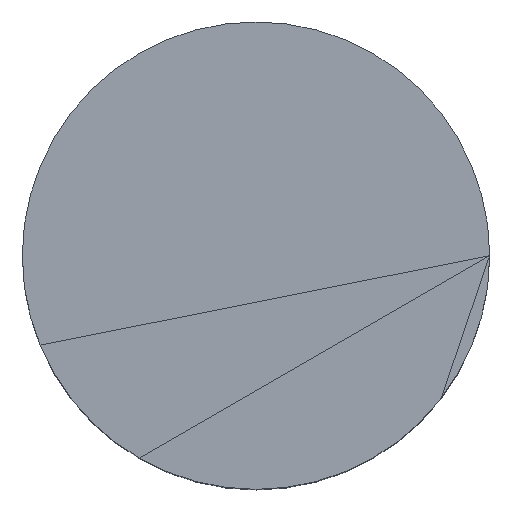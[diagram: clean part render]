
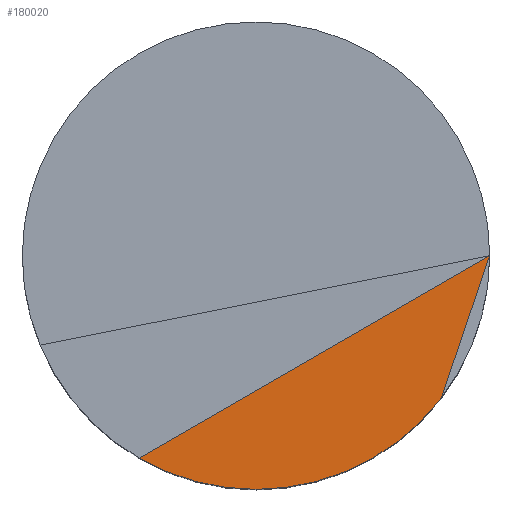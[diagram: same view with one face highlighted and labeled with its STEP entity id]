
A CAD part, top view. The second image highlights one B-rep face of the part: STEP entity #180020.
In plain terms, the highlighted free-form (B-spline) face has degree [1, 1] with [2, 2] control points.
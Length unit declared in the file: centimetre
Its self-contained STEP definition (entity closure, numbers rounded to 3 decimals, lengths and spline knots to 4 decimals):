
#179651 = CARTESIAN_POINT ('', (8.726, -9.6317, 82.9789));
#179652 = VERTEX_POINT ('', #179651);
#179658 = CARTESIAN_POINT ('', (7.538, -13.1321, 82.9789));
#179659 = VERTEX_POINT ('', #179658);
#179660 = CARTESIAN_POINT ('', (8.726, -9.6317, 82.9789));
#179661 = CARTESIAN_POINT ('', (7.538, -13.1321, 82.9789));
#179662 = B_SPLINE_CURVE_WITH_KNOTS ('', 1, (#179660, #179661), .UNSPECIFIED., .F., .U., (2, 2), (0., 1.), .UNSPECIFIED.);
#179663 = EDGE_CURVE ('', #179652, #179659, #179662, .T.);
#179930 = CARTESIAN_POINT ('', (6.476, -14.1935, 82.9789));
#179931 = VERTEX_POINT ('', #179930);
#179932 = CARTESIAN_POINT ('', (7.042, -13.6976, 82.9789));
#179933 = VERTEX_POINT ('', #179932);
#179934 = CARTESIAN_POINT ('', (6.476, -14.1935, 82.9789));
#179935 = CARTESIAN_POINT ('', (7.042, -13.6976, 82.9789));
#179936 = B_SPLINE_CURVE_WITH_KNOTS ('', 1, (#179934, #179935), .UNSPECIFIED., .F., .U., (2, 2), (0., 1.), .UNSPECIFIED.);
#179937 = EDGE_CURVE ('', #179931, #179933, #179936, .T.);
#179938 = ORIENTED_EDGE ('', *, *, #179937, .T.);
#179939 = CARTESIAN_POINT ('', (7.042, -13.6976, 82.9789));
#179940 = CARTESIAN_POINT ('', (7.538, -13.1321, 82.9789));
#179941 = B_SPLINE_CURVE_WITH_KNOTS ('', 1, (#179939, #179940), .UNSPECIFIED., .F., .U., (2, 2), (0., 1.), .UNSPECIFIED.);
#179942 = EDGE_CURVE ('', #179933, #179659, #179941, .T.);
#179943 = ORIENTED_EDGE ('', *, *, #179942, .T.);
#179944 = ORIENTED_EDGE ('', *, *, #179663, .F.);
#179945 = CARTESIAN_POINT ('', (0.101, -14.6114, 82.9789));
#179946 = VERTEX_POINT ('', #179945);
#179947 = CARTESIAN_POINT ('', (8.726, -9.6317, 82.9789));
#179948 = CARTESIAN_POINT ('', (0.101, -14.6114, 82.9789));
#179949 = B_SPLINE_CURVE_WITH_KNOTS ('', 1, (#179947, #179948), .UNSPECIFIED., .F., .U., (2, 2), (0., 1.), .UNSPECIFIED.);
#179950 = EDGE_CURVE ('', #179652, #179946, #179949, .T.);
#179951 = ORIENTED_EDGE ('', *, *, #179950, .T.);
#179952 = CARTESIAN_POINT ('', (0.7759, -14.944, 82.9789));
#179953 = VERTEX_POINT ('', #179952);
#179954 = CARTESIAN_POINT ('', (0.101, -14.6114, 82.9789));
#179955 = CARTESIAN_POINT ('', (0.7759, -14.944, 82.9789));
#179956 = B_SPLINE_CURVE_WITH_KNOTS ('', 1, (#179954, #179955), .UNSPECIFIED., .F., .U., (2, 2), (0., 1.), .UNSPECIFIED.);
#179957 = EDGE_CURVE ('', #179946, #179953, #179956, .T.);
#179958 = ORIENTED_EDGE ('', *, *, #179957, .T.);
#179959 = CARTESIAN_POINT ('', (1.4879, -15.1858, 82.9789));
#179960 = VERTEX_POINT ('', #179959);
#179961 = CARTESIAN_POINT ('', (0.7759, -14.944, 82.9789));
#179962 = CARTESIAN_POINT ('', (1.4879, -15.1858, 82.9789));
#179963 = B_SPLINE_CURVE_WITH_KNOTS ('', 1, (#179961, #179962), .UNSPECIFIED., .F., .U., (2, 2), (0., 1.), .UNSPECIFIED.);
#179964 = EDGE_CURVE ('', #179953, #179960, #179963, .T.);
#179965 = ORIENTED_EDGE ('', *, *, #179964, .T.);
#179966 = CARTESIAN_POINT ('', (2.226, -15.3325, 82.9789));
#179967 = VERTEX_POINT ('', #179966);
#179968 = CARTESIAN_POINT ('', (1.4879, -15.1858, 82.9789));
#179969 = CARTESIAN_POINT ('', (2.226, -15.3325, 82.9789));
#179970 = B_SPLINE_CURVE_WITH_KNOTS ('', 1, (#179968, #179969), .UNSPECIFIED., .F., .U., (2, 2), (0., 1.), .UNSPECIFIED.);
#179971 = EDGE_CURVE ('', #179960, #179967, #179970, .T.);
#179972 = ORIENTED_EDGE ('', *, *, #179971, .T.);
#179973 = CARTESIAN_POINT ('', (2.976, -15.3817, 82.9789));
#179974 = VERTEX_POINT ('', #179973);
#179975 = CARTESIAN_POINT ('', (2.226, -15.3325, 82.9789));
#179976 = CARTESIAN_POINT ('', (2.976, -15.3817, 82.9789));
#179977 = B_SPLINE_CURVE_WITH_KNOTS ('', 1, (#179975, #179976), .UNSPECIFIED., .F., .U., (2, 2), (0., 1.), .UNSPECIFIED.);
#179978 = EDGE_CURVE ('', #179967, #179974, #179977, .T.);
#179979 = ORIENTED_EDGE ('', *, *, #179978, .T.);
#179980 = CARTESIAN_POINT ('', (3.727, -15.3325, 82.9789));
#179981 = VERTEX_POINT ('', #179980);
#179982 = CARTESIAN_POINT ('', (2.976, -15.3817, 82.9789));
#179983 = CARTESIAN_POINT ('', (3.727, -15.3325, 82.9789));
#179984 = B_SPLINE_CURVE_WITH_KNOTS ('', 1, (#179982, #179983), .UNSPECIFIED., .F., .U., (2, 2), (0., 1.), .UNSPECIFIED.);
#179985 = EDGE_CURVE ('', #179974, #179981, #179984, .T.);
#179986 = ORIENTED_EDGE ('', *, *, #179985, .T.);
#179987 = CARTESIAN_POINT ('', (4.464, -15.1858, 82.9789));
#179988 = VERTEX_POINT ('', #179987);
#179989 = CARTESIAN_POINT ('', (3.727, -15.3325, 82.9789));
#179990 = CARTESIAN_POINT ('', (4.464, -15.1858, 82.9789));
#179991 = B_SPLINE_CURVE_WITH_KNOTS ('', 1, (#179989, #179990), .UNSPECIFIED., .F., .U., (2, 2), (0., 1.), .UNSPECIFIED.);
#179992 = EDGE_CURVE ('', #179981, #179988, #179991, .T.);
#179993 = ORIENTED_EDGE ('', *, *, #179992, .T.);
#179994 = CARTESIAN_POINT ('', (5.1769, -14.944, 82.9789));
#179995 = VERTEX_POINT ('', #179994);
#179996 = CARTESIAN_POINT ('', (4.464, -15.1858, 82.9789));
#179997 = CARTESIAN_POINT ('', (5.1769, -14.944, 82.9789));
#179998 = B_SPLINE_CURVE_WITH_KNOTS ('', 1, (#179996, #179997), .UNSPECIFIED., .F., .U., (2, 2), (0., 1.), .UNSPECIFIED.);
#179999 = EDGE_CURVE ('', #179988, #179995, #179998, .T.);
#180000 = ORIENTED_EDGE ('', *, *, #179999, .T.);
#180001 = CARTESIAN_POINT ('', (5.851, -14.6114, 82.9789));
#180002 = VERTEX_POINT ('', #180001);
#180003 = CARTESIAN_POINT ('', (5.1769, -14.944, 82.9789));
#180004 = CARTESIAN_POINT ('', (5.851, -14.6114, 82.9789));
#180005 = B_SPLINE_CURVE_WITH_KNOTS ('', 1, (#180003, #180004), .UNSPECIFIED., .F., .U., (2, 2), (0., 1.), .UNSPECIFIED.);
#180006 = EDGE_CURVE ('', #179995, #180002, #180005, .T.);
#180007 = ORIENTED_EDGE ('', *, *, #180006, .T.);
#180008 = CARTESIAN_POINT ('', (5.851, -14.6114, 82.9789));
#180009 = CARTESIAN_POINT ('', (6.476, -14.1935, 82.9789));
#180010 = B_SPLINE_CURVE_WITH_KNOTS ('', 1, (#180008, #180009), .UNSPECIFIED., .F., .U., (2, 2), (0., 1.), .UNSPECIFIED.);
#180011 = EDGE_CURVE ('', #180002, #179931, #180010, .T.);
#180012 = ORIENTED_EDGE ('', *, *, #180011, .T.);
#180013 = EDGE_LOOP ('', (#179938, #179943, #179944, #179951, #179958, #179965, #179972, #179979, #179986, #179993, #180000, #180007, #180012));
#180014 = FACE_OUTER_BOUND ('', #180013, .T.);
#180015 = CARTESIAN_POINT ('', (15.2356, -25.2061, 82.9789));
#180016 = CARTESIAN_POINT ('', (-6.5329, -25.2061, 82.9789));
#180017 = CARTESIAN_POINT ('', (15.2356, -3.4376, 82.9789));
#180018 = CARTESIAN_POINT ('', (-6.5329, -3.4376, 82.9789));
#180019 = B_SPLINE_SURFACE_WITH_KNOTS ('', 1, 1, ((#180015, #180016), (#180017, #180018)), .UNSPECIFIED., .F., .F., .U., (2, 2), (2, 2), (0., 1.), (0., 1.), .UNSPECIFIED.);
#180020 = ADVANCED_FACE ('', (#180014), #180019, .T.);
